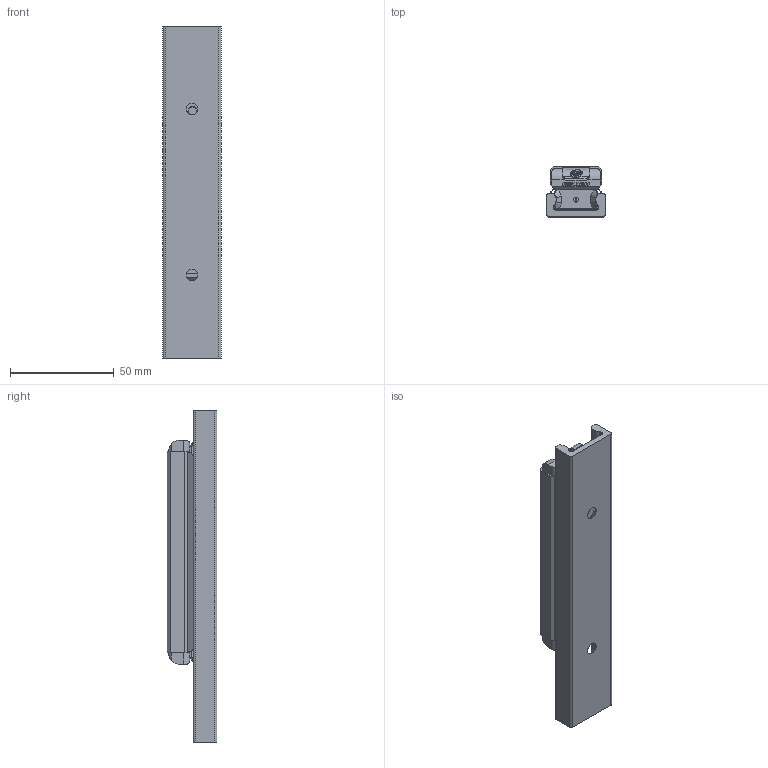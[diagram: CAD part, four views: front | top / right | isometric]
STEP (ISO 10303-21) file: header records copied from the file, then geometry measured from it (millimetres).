
FILE_DESCRIPTION( ( 'STEP AP214' ), '1' );
FILE_NAME( 'p:/temp/worker_16/temp/exporttempdir_1824_33_AI6ge/format_2/TGV-00160_1_RV28G-3.stp', '2020-11-20T15:13:47', ( 'License CC BY-ND 4.0' ), ( 'CADENAS' ), ' ', 'PARTsolutions', ' ' );
FILE_SCHEMA( ( 'AUTOMOTIVE_DESIGN { 1 0 10303 214 1 1 1 1 }' ) );
Length unit declared in the file: millimetre
Products named in the file (6): TGV-00160/1/RV28G-3; _TGV28-0160-(3-1); _RV28G-3-slider; _RGNV28R; _RGAV28R; _WR28G-01
Assembly tree (7 placements, depth 2):
  TGV-00160/1/RV28G-3
    _TGV28-0160-(3-1)
    _RV28G-3-slider
    _RGNV28R  x2
    _RGAV28R
    _WR28G-01  x2
Bounding box: 28 x 24 x 160 mm (x, y, z)
Volume: 59599.3 mm3; surface area: 35548.3 mm2
Topology: 7 solids, 7 shells, 1016 faces, 2655 edges, 1735 vertices
Faces by surface type: plane 657, cylinder 282, cone 42, bspline 26, torus 9
Full cylindrical faces by diameter (mm): 1.27 x4, 2 x2, 2.5 x6, 4 x4, 4.134 x4, 4.2 x3, 5 x3, 5.5 x3, 5.75 x2, 7 x5, 7.5 x1, 8 x6, 10.8 x3, 17 x3, 20.75 x6
Entity records: 24191 total; most frequent: CARTESIAN_POINT 3891, DIRECTION 3220, ORIENTED_EDGE 3006, EDGE_CURVE 1503, AXIS2_PLACEMENT_3D 1215, VERTEX_POINT 1035, EDGE_LOOP 803, LINE 790
